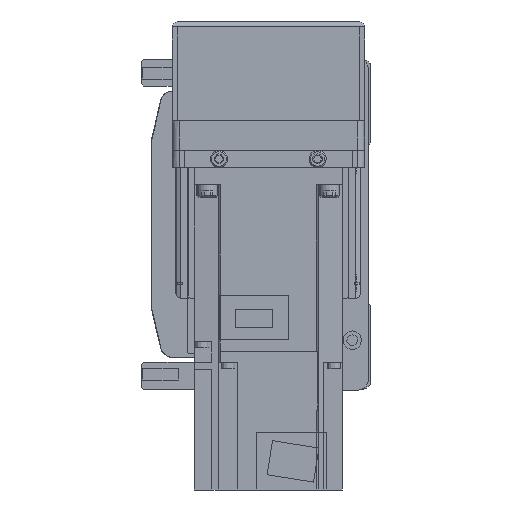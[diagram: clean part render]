
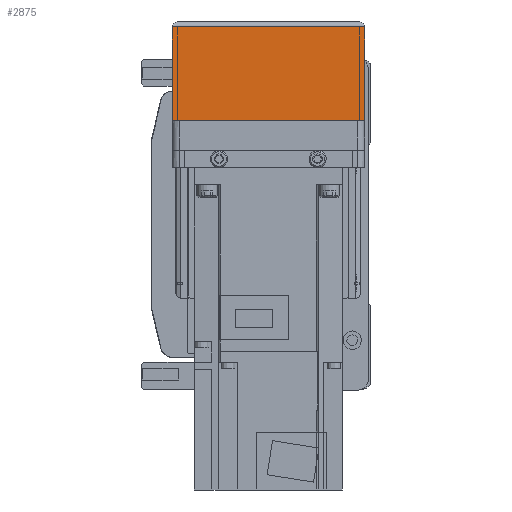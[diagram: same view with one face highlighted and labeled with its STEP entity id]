
A CAD part, left-side view. The second image highlights one B-rep face of the part: STEP entity #2875.
In plain terms, the highlighted planar face has unit normal (-1, 0, 0).
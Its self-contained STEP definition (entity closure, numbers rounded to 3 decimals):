
#2875 = ADVANCED_FACE( '', ( #6312 ), #6313, .F. );
#6312 = FACE_OUTER_BOUND( '', #10312, .T. );
#6313 = PLANE( '', #10313 );
#10312 = EDGE_LOOP( '', ( #18609, #18610, #18611, #18612 ) );
#10313 = AXIS2_PLACEMENT_3D( '', #18613, #18614, #18615 );
#18609 = ORIENTED_EDGE( '', *, *, #25382, .F. );
#18610 = ORIENTED_EDGE( '', *, *, #23030, .F. );
#18611 = ORIENTED_EDGE( '', *, *, #25383, .T. );
#18612 = ORIENTED_EDGE( '', *, *, #24257, .F. );
#18613 = CARTESIAN_POINT( '', ( -158., 36., 7. ) );
#18614 = DIRECTION( '', ( 1., 0., 0. ) );
#18615 = DIRECTION( '', ( 0., 0., -1. ) );
#23030 = EDGE_CURVE( '', #27734, #27736, #27737, .T. );
#24257 = EDGE_CURVE( '', #26655, #29695, #29696, .T. );
#25382 = EDGE_CURVE( '', #27736, #26655, #31239, .T. );
#25383 = EDGE_CURVE( '', #27734, #29695, #31240, .T. );
#26655 = VERTEX_POINT( '', #33332 );
#27734 = VERTEX_POINT( '', #34912 );
#27736 = VERTEX_POINT( '', #34915 );
#27737 = LINE( '', #34916, #34917 );
#29695 = VERTEX_POINT( '', #38031 );
#29696 = LINE( '', #38032, #38033 );
#31239 = LINE( '', #40553, #40554 );
#31240 = LINE( '', #40555, #40556 );
#33332 = CARTESIAN_POINT( '', ( -158., -39., -12.1 ) );
#34912 = CARTESIAN_POINT( '', ( -158., 39., -50. ) );
#34915 = CARTESIAN_POINT( '', ( -158., 39., -12.1 ) );
#34916 = CARTESIAN_POINT( '', ( -158., 39., -50. ) );
#34917 = VECTOR( '', #42872, 1000. );
#38031 = CARTESIAN_POINT( '', ( -158., -39., -50. ) );
#38032 = CARTESIAN_POINT( '', ( -158., -39., -12.1 ) );
#38033 = VECTOR( '', #44431, 1000. );
#40553 = CARTESIAN_POINT( '', ( -158., 50., -12.1 ) );
#40554 = VECTOR( '', #45721, 1000. );
#40555 = CARTESIAN_POINT( '', ( -158., 40., -50. ) );
#40556 = VECTOR( '', #45722, 1000. );
#42872 = DIRECTION( '', ( 0., 0., 1. ) );
#44431 = DIRECTION( '', ( 0., 0., -1. ) );
#45721 = DIRECTION( '', ( 0., -1., 0. ) );
#45722 = DIRECTION( '', ( 0., -1., 0. ) );
